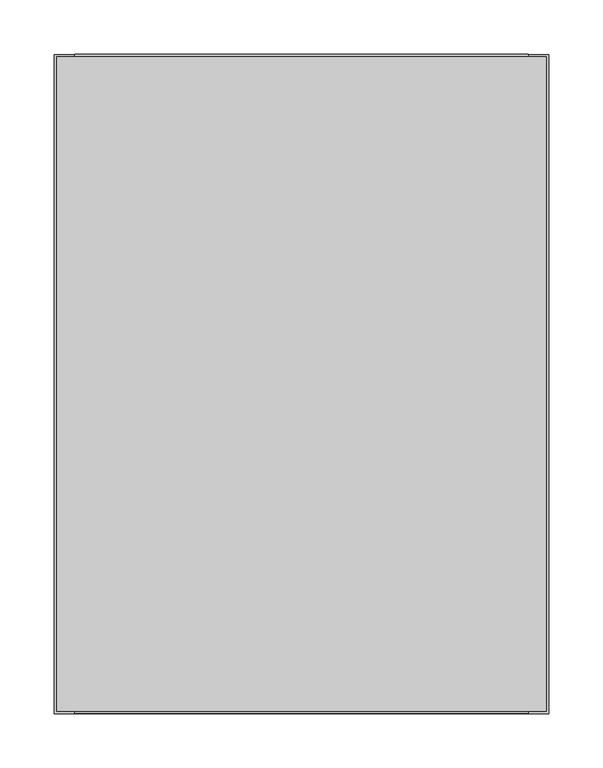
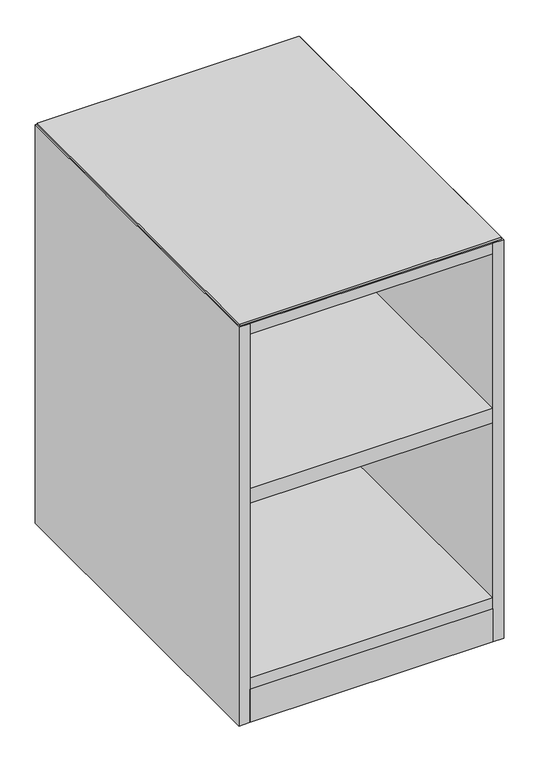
"""IFC4 building model written with IfcOpenShell, lengths in millimetres: furniture geometry, Geiger_GeigerOneCasegoods_LowStorageOpen : TFL 18Wx 24Dx28.75H."""

import ifcopenshell
import ifcopenshell.guid

model = None  # the IFC model being written
_history = None  # IfcOwnerHistory: only IFC2X3 demands one
_inside = {}  # id of a spatial element -> (the spatial element, [elements in it])
_under = {}  # id of a project, library or spatial element -> (it, [spatial elements below it])
_declared = {}  # id of a project -> (the project, [libraries it declares])
_typed = {}  # id of a type object -> (the type object, [elements of that type])
_made_of = {}  # id of a material, layer set ... -> (it, [elements and type objects made of it])


def new_model(schema):
    """Start an empty IFC model of exactly this schema.

    Asked for "IFC4X3", IfcOpenShell would pick the latest addendum, in which some entities
    have other attributes; the version numbers below select the first issue.
    IFC2X3 requires an IfcOwnerHistory on every rooted entity: one is made here for all.
    """
    global model, _history
    if schema == "IFC4X3":
        model = ifcopenshell.file(schema_version=(4, 3, 0, 0))
    else:
        model = ifcopenshell.file(schema=schema)
    _inside.clear()
    _under.clear()
    _declared.clear()
    _typed.clear()
    _made_of.clear()
    _history = None
    if model.schema == "IFC2X3":
        org = make("IfcOrganization", Name="unknown")
        user = make(
            "IfcPersonAndOrganization",
            ThePerson=make("IfcPerson", FamilyName="unknown"),
            TheOrganization=org,
        )
        app = make(
            "IfcApplication",
            ApplicationDeveloper=org,
            Version="unknown",
            ApplicationFullName="unknown",
            ApplicationIdentifier="unknown",
        )
        _history = make(
            "IfcOwnerHistory",
            OwningUser=user,
            OwningApplication=app,
            ChangeAction="ADDED",
            CreationDate=0,
        )
    return model


def make(cls, **values):
    """One entity of the class cls with the attributes given. An attribute that is None is left unset."""
    return model.create_entity(
        cls, **{name: value for name, value in values.items() if value is not None}
    )


def rooted(cls, **values):
    """An entity with a GlobalId (a new one), such as an element, a storey or a relation."""
    return make(cls, GlobalId=ifcopenshell.guid.new(), OwnerHistory=_history, **values)


def si_unit(unit_type, name, prefix=None):
    """IfcSIUnit, for example si_unit("LENGTHUNIT", "METRE", prefix="MILLI")."""
    return make("IfcSIUnit", UnitType=unit_type, Prefix=prefix, Name=name)


def assignment(units):
    """IfcUnitAssignment: the units of a project."""
    return None if units is None else make("IfcUnitAssignment", Units=units)


def point(xyz):
    """IfcCartesianPoint."""
    return None if xyz is None else make("IfcCartesianPoint", Coordinates=xyz)


def direction(xyz):
    """IfcDirection."""
    return None if xyz is None else make("IfcDirection", DirectionRatios=xyz)


def frame(location, z_axis=None, x_axis=None):
    """IfcAxis2Placement3D, a coordinate frame: its origin and axes. An axis left out is left unset."""
    return make(
        "IfcAxis2Placement3D",
        Location=point(location),
        Axis=direction(z_axis),
        RefDirection=direction(x_axis),
    )


def origin():
    """The frame at (0, 0, 0) with its axes left unset."""
    return frame((0.0, 0.0, 0.0))


def place(relative_to, where):
    """IfcLocalPlacement: puts the frame where relative to a parent placement (None: the world)."""
    return make(
        "IfcLocalPlacement", PlacementRelTo=relative_to, RelativePlacement=where
    )


def context(
    kind, dimensions, precision=None, world=None, true_north=None, identifier=None
):
    """IfcGeometricRepresentationContext, for example the 3D "Model" context."""
    return make(
        "IfcGeometricRepresentationContext",
        ContextIdentifier=identifier,
        ContextType=kind,
        CoordinateSpaceDimension=dimensions,
        Precision=precision,
        WorldCoordinateSystem=world,
        TrueNorth=true_north,
    )


def project(units=None, contexts=None):
    """IfcProject with its units and contexts."""
    return rooted(
        "IfcProject",
        Name="project",
        RepresentationContexts=contexts,
        UnitsInContext=assignment(units),
    )


def spatial(cls, under=None, at=None, **own):
    """A site, building, storey or space (cls), placed at a placement, below another one or the project."""
    s = rooted(cls, ObjectPlacement=at, **own)
    if under is not None:
        _under.setdefault(under.id(), (under, []))[1].append(s)
    return s


def polyline(points):
    """IfcPolyline through the points."""
    return make("IfcPolyline", Points=[point(p) for p in points])


def circle_curve(where, radius):
    """IfcCircle in the frame where."""
    return make("IfcCircle", Position=where, Radius=radius)


def ellipse_curve(where, semi_axis1, semi_axis2):
    """IfcEllipse in the frame where."""
    return make(
        "IfcEllipse", Position=where, SemiAxis1=semi_axis1, SemiAxis2=semi_axis2
    )


def trimmed(basis, trim1, trim2, sense, master):
    """IfcTrimmedCurve: the piece of a basis curve between two trims."""
    return make(
        "IfcTrimmedCurve",
        BasisCurve=basis,
        Trim1=trim1,
        Trim2=trim2,
        SenseAgreement=sense,
        MasterRepresentation=master,
    )


def outline(outer, holes=None, kind="AREA"):
    """IfcArbitraryClosedProfileDef: a profile drawn as a closed curve; with holes, ...WithVoids."""
    if holes is None:
        return make("IfcArbitraryClosedProfileDef", ProfileType=kind, OuterCurve=outer)
    return make(
        "IfcArbitraryProfileDefWithVoids",
        ProfileType=kind,
        OuterCurve=outer,
        InnerCurves=holes,
    )


def extrude(swept, where, along, depth):
    """IfcExtrudedAreaSolid: the profile swept, set in the frame where, extruded along a direction by depth."""
    return make(
        "IfcExtrudedAreaSolid",
        SweptArea=swept,
        Position=where,
        ExtrudedDirection=direction(along),
        Depth=depth,
    )


def shape(context_of_items, identifier, shape_type, items):
    """IfcShapeRepresentation: the items that make up one representation, for example the "Body"."""
    return make(
        "IfcShapeRepresentation",
        ContextOfItems=context_of_items,
        RepresentationIdentifier=identifier,
        RepresentationType=shape_type,
        Items=items,
    )


def source(mapping_origin, context_of_items, identifier, shape_type, items):
    """IfcRepresentationMap: a shape defined once, which mapped items show again and again."""
    return make(
        "IfcRepresentationMap",
        MappingOrigin=mapping_origin,
        MappedRepresentation=shape(context_of_items, identifier, shape_type, items),
    )


def transform(
    local_origin,
    x_axis=None,
    y_axis=None,
    z_axis=None,
    scale=None,
    scale2=None,
    scale3=None,
    uniform=True,
):
    """IfcCartesianTransformationOperator3D, or its non-uniform kind. x_axis, y_axis, z_axis: its Axis1, 2, 3."""
    if uniform:
        return make(
            "IfcCartesianTransformationOperator3D",
            Axis1=direction(x_axis),
            Axis2=direction(y_axis),
            LocalOrigin=point(local_origin),
            Scale=scale,
            Axis3=direction(z_axis),
        )
    return make(
        "IfcCartesianTransformationOperator3DnonUniform",
        Axis1=direction(x_axis),
        Axis2=direction(y_axis),
        LocalOrigin=point(local_origin),
        Scale=scale,
        Axis3=direction(z_axis),
        Scale2=scale2,
        Scale3=scale3,
    )


def mapped(mapping_source, mapping_target):
    """IfcMappedItem: shows the shape of a source again, moved by a transform."""
    return make(
        "IfcMappedItem", MappingSource=mapping_source, MappingTarget=mapping_target
    )


def made_of(thing, what):
    """Note that an element or type object is made of a material, layer set ...; save() writes the relation."""
    if what is not None:
        _made_of.setdefault(what.id(), (what, []))[1].append(thing)
    return thing


def element(
    cls,
    number,
    at=None,
    inside=None,
    cuts=None,
    type_object=None,
    material=None,
    context=None,
    identifier="Body",
    shape_type=None,
    held_by="IfcProductDefinitionShape",
    body=None,
    shapes=None,
    **own,
):
    """One element of the class cls, such as IfcWall. Its Tag is "e" and its number.

    at: its placement. inside: the storey or other place that contains it. cuts: it is an
    opening in that element (IfcRelVoidsElement). A single representation is given by context,
    identifier, shape_type and body (its items); several are given by shapes. held_by: the class
    of the entity that holds the representations. save() writes the other relations.
    """
    e = rooted(cls, Tag="e%d" % number, ObjectPlacement=at, **own)
    if body is not None:
        shapes = [shape(context, identifier, shape_type, body)]
    if shapes is not None:
        e.Representation = make(held_by, Representations=shapes)
    if inside is not None:
        _inside.setdefault(inside.id(), (inside, []))[1].append(e)
    if cuts is not None:
        rooted(
            "IfcRelVoidsElement", RelatingBuildingElement=cuts, RelatedOpeningElement=e
        )
    if type_object is not None:
        _typed.setdefault(type_object.id(), (type_object, []))[1].append(e)
    return made_of(e, material)


def aggregate(whole, parts):
    """IfcRelAggregates: a whole, such as a stair, and the parts it consists of."""
    return rooted("IfcRelAggregates", RelatingObject=whole, RelatedObjects=parts)


def save(model, path):
    """Write the relations noted so far, then the file.

    IfcRelAggregates (storeys below a building ...), IfcRelContainedInSpatialStructure (elements
    in a storey), IfcRelDefinesByType, IfcRelAssociatesMaterial and IfcRelDeclares: one each for
    every whole, place, type object, material and project.
    """
    for whole, parts in _under.values():
        aggregate(whole, parts)
    for where, things in _inside.values():
        rooted(
            "IfcRelContainedInSpatialStructure",
            RelatedElements=things,
            RelatingStructure=where,
        )
    for kind, things in _typed.values():
        rooted("IfcRelDefinesByType", RelatedObjects=things, RelatingType=kind)
    for what, things in _made_of.values():
        rooted("IfcRelAssociatesMaterial", RelatedObjects=things, RelatingMaterial=what)
    for by, libraries in _declared.values():
        rooted("IfcRelDeclares", RelatingContext=by, RelatedDefinitions=libraries)
    model.write(path)


def plane_surface(at):
    """IfcPlane: the flat surface through the origin of the frame at, square to its z axis."""
    return make("IfcPlane", Position=at)


def cylinder_surface(at, radius):
    """IfcCylindricalSurface: all points at the distance radius from the z axis of the frame at."""
    return make("IfcCylindricalSurface", Position=at, Radius=radius)


def revolved_surface(curve, axis_point, axis_direction):
    """IfcSurfaceOfRevolution: the curve turned about the line through axis_point along axis_direction."""
    return make(
        "IfcSurfaceOfRevolution",
        SweptCurve=make("IfcArbitraryOpenProfileDef", ProfileType="CURVE", Curve=curve),
        AxisPosition=make("IfcAxis1Placement", Location=point(axis_point), Axis=direction(axis_direction)),
    )


def advanced_brep(points, edges, surfaces, faces):
    """IfcAdvancedBrep: a solid bounded by faces that lie on surfaces and meet in shared edges.

    An edge is (start, end): straight between two places in points (the first is 0);
    or (start, end, curve); or (start, end, curve, False) where it runs against its curve.
    A face is (place in surfaces, loops), or (place, loops, False) where it looks against
    its surface's normal. A loop lists edges by number (the first is 1), with a minus sign
    where the edge is run from its end to its start. The first loop is the outer one.
    """
    corners = [point(p) for p in points]
    vertices = [make("IfcVertexPoint", VertexGeometry=c) for c in corners]
    made = []
    for start, end, *more in edges:
        made.append(
            make(
                "IfcEdgeCurve",
                EdgeStart=vertices[start],
                EdgeEnd=vertices[end],
                EdgeGeometry=more[0] if more else make("IfcPolyline", Points=[corners[start], corners[end]]),
                SameSense=more[1] if len(more) > 1 else True,
            )
        )
    hull = []
    for where, loops, *sense in faces:
        bounds = []
        for j, loop in enumerate(loops):
            ring = [make("IfcOrientedEdge", EdgeElement=made[abs(k) - 1], Orientation=k > 0) for k in loop]
            bounds.append(
                make(
                    "IfcFaceOuterBound" if j == 0 else "IfcFaceBound",
                    Bound=make("IfcEdgeLoop", EdgeList=ring),
                    Orientation=True,
                )
            )
        hull.append(make("IfcAdvancedFace", Bounds=bounds, FaceSurface=surfaces[where], SameSense=sense[0] if sense else True))
    return make("IfcAdvancedBrep", Outer=make("IfcClosedShell", CfsFaces=hull))


def furniture_950f9a17(model_context):
    return source(origin(), model_context, "Body", "SolidModel", [
        extrude(outline(polyline([(19.0, -19.5), (438.2, -19.5), (438.2, -590.1), (19.0, -590.1), (19.0, -19.5)])), frame((0.0, 0.0, 12.7), z_axis=(0.0, 0.0, 1.0), x_axis=(1.0, 0.0, 0.0)), (0.0, 0.0, 1.0), 19.5),
        extrude(outline(polyline([(454.66, -2.54), (454.66, -607.06), (2.54, -607.06), (2.54, -2.54), (454.66, -2.54)])), frame((0.0, 0.0, 739.5), z_axis=(0.0, 0.0, 1.0), x_axis=(1.0, 0.0, 0.0)), (0.0, 0.0, 1.0), 3.2766),
        extrude(outline(polyline([(19.0, -248.1), (438.2, -248.1), (438.2, -609.1), (19.0, -609.1), (19.0, -248.1)])), frame((0.0, 0.0, 720.0), z_axis=(0.0, 0.0, 1.0), x_axis=(1.0, 0.0, 0.0)), (0.0, 0.0, 1.0), 19.5),
        extrude(outline(polyline([(19.0, -95.5), (438.2, -95.5), (438.2, -114.5), (19.0, -114.5), (19.0, -95.5)])), frame((0.0, 0.0, 73.2), z_axis=(0.0, 0.0, 1.0), x_axis=(1.0, 0.0, 0.0)), (0.0, 0.0, 1.0), 614.8),
        extrude(outline(polyline([(19.0, -114.5), (438.2, -114.5), (438.2, -609.1), (19.0, -609.1), (19.0, -114.5)])), frame((0.0, 0.0, 412.2928), z_axis=(0.0, 0.0, 1.0), x_axis=(1.0, 0.0, 0.0)), (0.0, 0.0, 1.0), 26.0008),
        extrude(outline(polyline([(19.0, -114.5), (438.2, -114.5), (438.2, -609.1), (19.0, -609.1), (19.0, -114.5)])), frame((0.0, 0.0, 73.2), z_axis=(0.0, 0.0, 1.0), x_axis=(1.0, 0.0, 0.0)), (0.0, 0.0, 1.0), 19.5),
        extrude(outline(polyline([(438.2, -19.5), (19.0, -19.5), (19.0, 0.0), (438.2, 0.0), (438.2, -19.5)])), frame((0.0, 0.0, 12.7), z_axis=(0.0, 0.0, 1.0), x_axis=(1.0, 0.0, 0.0)), (0.0, 0.0, 1.0), 726.8),
        extrude(outline(polyline([(19.0, -590.1), (438.2, -590.1), (438.2, -609.6), (19.0, -609.6), (19.0, -590.1)])), frame((0.0, 0.0, 12.7), z_axis=(0.0, 0.0, 1.0), x_axis=(1.0, 0.0, 0.0)), (0.0, 0.0, 1.0), 60.5),
        extrude(outline(polyline([(19.0, -609.6), (0.0, -609.6), (0.0, -0.5), (19.0, -0.5), (19.0, -609.6)])), frame((0.0, 0.0, 12.7), z_axis=(0.0, 0.0, 1.0), x_axis=(1.0, 0.0, 0.0)), (0.0, 0.0, 1.0), 726.8),
        extrude(outline(polyline([(457.2, -609.6), (438.2, -609.6), (438.2, -0.5), (457.2, -0.5), (457.2, -609.6)])), frame((0.0, 0.0, 12.7), z_axis=(0.0, 0.0, 1.0), x_axis=(1.0, 0.0, 0.0)), (0.0, 0.0, 1.0), 726.8),
        advanced_brep(
        [(94.0575663, -552.1, 0.0), (71.9424337, -552.1, 0.0), (83.0, -552.1, 0.0), (94.0575663, -552.1, 9.5), (71.9424337, -552.1, 9.5), (87.066455, -552.1, 9.5), (78.933545, -552.1, 9.5), (87.066455, -552.1, 12.7), (78.933545, -552.1, 12.7), (83.0, -552.1, 12.7)],
        [
            (0, 1, circle_curve(frame((83.0, -552.1, 0.0), z_axis=(0.0, 0.0, -1.0), x_axis=(-1.0, 0.0, 0.0)), 11.0575663)),
            (1, 2),
            (2, 0),
            (1, 0, circle_curve(frame((83.0, -552.1, 0.0), z_axis=(0.0, 0.0, -1.0), x_axis=(-1.0, 0.0, 0.0)), 11.0575663)),
            (0, 3, circle_curve(frame((94.0575663, -552.1, 4.75), z_axis=(0.0, -1.0, 0.0), x_axis=(1.0, 0.0, 0.0)), 4.75)),
            (3, 4, circle_curve(frame((83.0, -552.1, 9.5), z_axis=(0.0, 0.0, -1.0), x_axis=(-1.0, 0.0, 0.0)), 11.0575663)),
            (4, 1, circle_curve(frame((71.9424337, -552.1, 4.75), z_axis=(0.0, -1.0, 0.0), x_axis=(-1.0, 0.0, 0.0)), 4.75)),
            (4, 3, circle_curve(frame((83.0, -552.1, 9.5), z_axis=(0.0, 0.0, -1.0), x_axis=(-1.0, 0.0, 0.0)), 11.0575663)),
            (3, 5),
            (5, 6, circle_curve(frame((83.0, -552.1, 9.5), z_axis=(0.0, 0.0, -1.0), x_axis=(-1.0, 0.0, 0.0)), 4.066455)),
            (6, 4),
            (6, 5, circle_curve(frame((83.0, -552.1, 9.5), z_axis=(0.0, 0.0, -1.0), x_axis=(-1.0, 0.0, 0.0)), 4.066455)),
            (5, 7),
            (7, 8, circle_curve(frame((83.0, -552.1, 12.7), z_axis=(0.0, 0.0, -1.0), x_axis=(-1.0, 0.0, 0.0)), 4.066455)),
            (8, 6),
            (8, 7, circle_curve(frame((83.0, -552.1, 12.7), z_axis=(0.0, 0.0, -1.0), x_axis=(-1.0, 0.0, 0.0)), 4.066455)),
            (7, 9),
            (9, 8),
        ],
        [
            plane_surface(frame((83.0, -552.1, 0.0), z_axis=(0.0, 0.0, -1.0), x_axis=(-1.0, 0.0, 0.0))),
            revolved_surface(trimmed(ellipse_curve(frame((71.9424337, -552.1, 4.75), z_axis=(0.0, 1.0, 0.0), x_axis=(-1.0, 0.0, 0.0)), 4.75, 4.75), [point((71.9424337, -552.1, 0.0))], [point((71.9424337, -552.1, 9.5))], True, "CARTESIAN"), (83.0, -552.1, 0.0), (0.0, 0.0, 1.0)),
            plane_surface(frame((83.0, -552.1, 9.5), z_axis=(0.0, 0.0, 1.0), x_axis=(-1.0, 0.0, 0.0))),
            cylinder_surface(frame((83.0, -552.1, 0.0), z_axis=(0.0, 0.0, 1.0), x_axis=(-1.0, 0.0, 0.0)), 4.066455),
            plane_surface(frame((83.0, -552.1, 12.7), z_axis=(0.0, 0.0, 1.0), x_axis=(-1.0, 0.0, 0.0))),
        ],
        [
            (0, [[1, 2, 3]]),
            (0, [[-2, 4, -3]]),
            (1, [[-1, 5, 6, 7]]),
            (1, [[-4, -7, 8, -5]]),
            (2, [[-6, 9, 10, 11]]),
            (2, [[-8, -11, 12, -9]]),
            (3, [[-10, 13, 14, 15]]),
            (3, [[-12, -15, 16, -13]]),
            (4, [[-14, 17, 18]]),
            (4, [[-16, -18, -17]]),
        ],
    ),
        advanced_brep(
        [(94.0575663, -127.0, 0.0), (71.9424337, -127.0, 0.0), (83.0, -127.0, 0.0), (94.0575663, -127.0, 9.5), (71.9424337, -127.0, 9.5), (87.066455, -127.0, 9.5), (78.933545, -127.0, 9.5), (87.066455, -127.0, 12.7), (78.933545, -127.0, 12.7), (83.0, -127.0, 12.7)],
        [
            (0, 1, circle_curve(frame((83.0, -127.0, 0.0), z_axis=(0.0, 0.0, -1.0), x_axis=(-1.0, 0.0, 0.0)), 11.0575663)),
            (1, 2),
            (2, 0),
            (1, 0, circle_curve(frame((83.0, -127.0, 0.0), z_axis=(0.0, 0.0, -1.0), x_axis=(-1.0, 0.0, 0.0)), 11.0575663)),
            (0, 3, circle_curve(frame((94.0575663, -127.0, 4.75), z_axis=(0.0, -1.0, 0.0), x_axis=(1.0, 0.0, 0.0)), 4.75)),
            (3, 4, circle_curve(frame((83.0, -127.0, 9.5), z_axis=(0.0, 0.0, -1.0), x_axis=(-1.0, 0.0, 0.0)), 11.0575663)),
            (4, 1, circle_curve(frame((71.9424337, -127.0, 4.75), z_axis=(0.0, -1.0, 0.0), x_axis=(-1.0, 0.0, 0.0)), 4.75)),
            (4, 3, circle_curve(frame((83.0, -127.0, 9.5), z_axis=(0.0, 0.0, -1.0), x_axis=(-1.0, 0.0, 0.0)), 11.0575663)),
            (3, 5),
            (5, 6, circle_curve(frame((83.0, -127.0, 9.5), z_axis=(0.0, 0.0, -1.0), x_axis=(-1.0, 0.0, 0.0)), 4.066455)),
            (6, 4),
            (6, 5, circle_curve(frame((83.0, -127.0, 9.5), z_axis=(0.0, 0.0, -1.0), x_axis=(-1.0, 0.0, 0.0)), 4.066455)),
            (5, 7),
            (7, 8, circle_curve(frame((83.0, -127.0, 12.7), z_axis=(0.0, 0.0, -1.0), x_axis=(-1.0, 0.0, 0.0)), 4.066455)),
            (8, 6),
            (8, 7, circle_curve(frame((83.0, -127.0, 12.7), z_axis=(0.0, 0.0, -1.0), x_axis=(-1.0, 0.0, 0.0)), 4.066455)),
            (7, 9),
            (9, 8),
        ],
        [
            plane_surface(frame((83.0, -127.0, 0.0), z_axis=(0.0, 0.0, -1.0), x_axis=(-1.0, 0.0, 0.0))),
            revolved_surface(trimmed(ellipse_curve(frame((71.9424337, -127.0, 4.75), z_axis=(0.0, 1.0, 0.0), x_axis=(-1.0, 0.0, 0.0)), 4.75, 4.75), [point((71.9424337, -127.0, 0.0))], [point((71.9424337, -127.0, 9.5))], True, "CARTESIAN"), (83.0, -127.0, 0.0), (0.0, 0.0, 1.0)),
            plane_surface(frame((83.0, -127.0, 9.5), z_axis=(0.0, 0.0, 1.0), x_axis=(-1.0, 0.0, 0.0))),
            cylinder_surface(frame((83.0, -127.0, 0.0), z_axis=(0.0, 0.0, 1.0), x_axis=(-1.0, 0.0, 0.0)), 4.066455),
            plane_surface(frame((83.0, -127.0, 12.7), z_axis=(0.0, 0.0, 1.0), x_axis=(-1.0, 0.0, 0.0))),
        ],
        [
            (0, [[1, 2, 3]]),
            (0, [[-2, 4, -3]]),
            (1, [[-1, 5, 6, 7]]),
            (1, [[-4, -7, 8, -5]]),
            (2, [[-6, 9, 10, 11]]),
            (2, [[-8, -11, 12, -9]]),
            (3, [[-10, 13, 14, 15]]),
            (3, [[-12, -15, 16, -13]]),
            (4, [[-14, 17, 18]]),
            (4, [[-16, -18, -17]]),
        ],
    ),
        advanced_brep(
        [(374.2, -552.1, 0.0), (385.2575663, -552.1, 0.0), (363.1424337, -552.1, 0.0), (385.2575663, -552.1, 9.5), (363.1424337, -552.1, 9.5), (378.266455, -552.1, 9.5), (370.133545, -552.1, 9.5), (378.266455, -552.1, 12.7), (370.133545, -552.1, 12.7), (374.2, -552.1, 12.7)],
        [
            (0, 1),
            (1, 2, circle_curve(frame((374.2, -552.1, 0.0), z_axis=(0.0, 0.0, -1.0), x_axis=(1.0, 0.0, 0.0)), 11.0575663)),
            (2, 0),
            (2, 1, circle_curve(frame((374.2, -552.1, 0.0), z_axis=(0.0, 0.0, -1.0), x_axis=(1.0, 0.0, 0.0)), 11.0575663)),
            (1, 3, circle_curve(frame((385.2575663, -552.1, 4.75), z_axis=(0.0, -1.0, 0.0), x_axis=(-1.0, 0.0, 0.0)), 4.75)),
            (3, 4, circle_curve(frame((374.2, -552.1, 9.5), z_axis=(0.0, 0.0, -1.0), x_axis=(1.0, 0.0, 0.0)), 11.0575663)),
            (4, 2, circle_curve(frame((363.1424337, -552.1, 4.75), z_axis=(0.0, -1.0, 0.0), x_axis=(1.0, 0.0, 0.0)), 4.75)),
            (4, 3, circle_curve(frame((374.2, -552.1, 9.5), z_axis=(0.0, 0.0, -1.0), x_axis=(1.0, 0.0, 0.0)), 11.0575663)),
            (3, 5),
            (5, 6, circle_curve(frame((374.2, -552.1, 9.5), z_axis=(0.0, 0.0, -1.0), x_axis=(1.0, 0.0, 0.0)), 4.066455)),
            (6, 4),
            (6, 5, circle_curve(frame((374.2, -552.1, 9.5), z_axis=(0.0, 0.0, -1.0), x_axis=(1.0, 0.0, 0.0)), 4.066455)),
            (5, 7),
            (7, 8, circle_curve(frame((374.2, -552.1, 12.7), z_axis=(0.0, 0.0, -1.0), x_axis=(1.0, 0.0, 0.0)), 4.066455)),
            (8, 6),
            (8, 7, circle_curve(frame((374.2, -552.1, 12.7), z_axis=(0.0, 0.0, -1.0), x_axis=(1.0, 0.0, 0.0)), 4.066455)),
            (7, 9),
            (9, 8),
        ],
        [
            plane_surface(frame((374.2, -552.1, 0.0), z_axis=(0.0, 0.0, -1.0), x_axis=(1.0, 0.0, 0.0))),
            revolved_surface(trimmed(ellipse_curve(frame((385.2575663, -552.1, 4.75), z_axis=(0.0, 1.0, 0.0), x_axis=(-1.0, 0.0, 0.0)), 4.75, 4.75), [point((385.2575663, -552.1, 9.5))], [point((385.2575663, -552.1, 0.0))], True, "CARTESIAN"), (374.2, -552.1, 0.0), (0.0, 0.0, -1.0)),
            plane_surface(frame((374.2, -552.1, 9.5), z_axis=(0.0, 0.0, 1.0), x_axis=(1.0, 0.0, 0.0))),
            cylinder_surface(frame((374.2, -552.1, 0.0), z_axis=(0.0, 0.0, -1.0), x_axis=(1.0, 0.0, 0.0)), 4.066455),
            plane_surface(frame((374.2, -552.1, 12.7), z_axis=(0.0, 0.0, 1.0), x_axis=(1.0, 0.0, 0.0))),
        ],
        [
            (0, [[1, 2, 3]]),
            (0, [[-1, -3, 4]]),
            (1, [[-2, 5, 6, 7]]),
            (1, [[-4, -7, 8, -5]]),
            (2, [[-6, 9, 10, 11]]),
            (2, [[-8, -11, 12, -9]]),
            (3, [[-10, 13, 14, 15]]),
            (3, [[-12, -15, 16, -13]]),
            (4, [[-14, 17, 18]]),
            (4, [[-16, -18, -17]]),
        ],
    ),
        advanced_brep(
        [(374.2, -127.0, 0.0), (385.2575663, -127.0, 0.0), (363.1424337, -127.0, 0.0), (385.2575663, -127.0, 9.5), (363.1424337, -127.0, 9.5), (378.266455, -127.0, 9.5), (370.133545, -127.0, 9.5), (378.266455, -127.0, 12.7), (370.133545, -127.0, 12.7), (374.2, -127.0, 12.7)],
        [
            (0, 1),
            (1, 2, circle_curve(frame((374.2, -127.0, 0.0), z_axis=(0.0, 0.0, -1.0), x_axis=(1.0, 0.0, 0.0)), 11.0575663)),
            (2, 0),
            (2, 1, circle_curve(frame((374.2, -127.0, 0.0), z_axis=(0.0, 0.0, -1.0), x_axis=(1.0, 0.0, 0.0)), 11.0575663)),
            (1, 3, circle_curve(frame((385.2575663, -127.0, 4.75), z_axis=(0.0, -1.0, 0.0), x_axis=(-1.0, 0.0, 0.0)), 4.75)),
            (3, 4, circle_curve(frame((374.2, -127.0, 9.5), z_axis=(0.0, 0.0, -1.0), x_axis=(1.0, 0.0, 0.0)), 11.0575663)),
            (4, 2, circle_curve(frame((363.1424337, -127.0, 4.75), z_axis=(0.0, -1.0, 0.0), x_axis=(1.0, 0.0, 0.0)), 4.75)),
            (4, 3, circle_curve(frame((374.2, -127.0, 9.5), z_axis=(0.0, 0.0, -1.0), x_axis=(1.0, 0.0, 0.0)), 11.0575663)),
            (3, 5),
            (5, 6, circle_curve(frame((374.2, -127.0, 9.5), z_axis=(0.0, 0.0, -1.0), x_axis=(1.0, 0.0, 0.0)), 4.066455)),
            (6, 4),
            (6, 5, circle_curve(frame((374.2, -127.0, 9.5), z_axis=(0.0, 0.0, -1.0), x_axis=(1.0, 0.0, 0.0)), 4.066455)),
            (5, 7),
            (7, 8, circle_curve(frame((374.2, -127.0, 12.7), z_axis=(0.0, 0.0, -1.0), x_axis=(1.0, 0.0, 0.0)), 4.066455)),
            (8, 6),
            (8, 7, circle_curve(frame((374.2, -127.0, 12.7), z_axis=(0.0, 0.0, -1.0), x_axis=(1.0, 0.0, 0.0)), 4.066455)),
            (7, 9),
            (9, 8),
        ],
        [
            plane_surface(frame((374.2, -127.0, 0.0), z_axis=(0.0, 0.0, -1.0), x_axis=(1.0, 0.0, 0.0))),
            revolved_surface(trimmed(ellipse_curve(frame((385.2575663, -127.0, 4.75), z_axis=(0.0, 1.0, 0.0), x_axis=(-1.0, 0.0, 0.0)), 4.75, 4.75), [point((385.2575663, -127.0, 9.5))], [point((385.2575663, -127.0, 0.0))], True, "CARTESIAN"), (374.2, -127.0, 0.0), (0.0, 0.0, -1.0)),
            plane_surface(frame((374.2, -127.0, 9.5), z_axis=(0.0, 0.0, 1.0), x_axis=(1.0, 0.0, 0.0))),
            cylinder_surface(frame((374.2, -127.0, 0.0), z_axis=(0.0, 0.0, -1.0), x_axis=(1.0, 0.0, 0.0)), 4.066455),
            plane_surface(frame((374.2, -127.0, 12.7), z_axis=(0.0, 0.0, 1.0), x_axis=(1.0, 0.0, 0.0))),
        ],
        [
            (0, [[1, 2, 3]]),
            (0, [[-1, -3, 4]]),
            (1, [[-2, 5, 6, 7]]),
            (1, [[-4, -7, 8, -5]]),
            (2, [[-6, 9, 10, 11]]),
            (2, [[-8, -11, 12, -9]]),
            (3, [[-10, 13, 14, 15]]),
            (3, [[-12, -15, 16, -13]]),
            (4, [[-14, 17, 18]]),
            (4, [[-16, -18, -17]]),
        ],
    ),
    ])


if __name__ == "__main__":
    model = new_model("IFC4")
    model_context = context("Model", 3, world=origin())
    ifc_project = project(units=[si_unit("LENGTHUNIT", "METRE", prefix="MILLI")], contexts=[model_context])
    site = spatial("IfcSite", under=ifc_project)
    building = spatial("IfcBuilding", under=site)
    placement = place(None, origin())
    furniture_shape = furniture_950f9a17(model_context)
    element("IfcFurniture", 1, ObjectType="Geiger_GeigerOneCasegoods_LowStorageOpen : TFL 18Wx 24Dx28.75H", at=placement, inside=building, context=model_context, shape_type="MappedRepresentation", body=[
        mapped(furniture_shape, transform((0.0, 0.0, 0.0), x_axis=(1.0, 0.0, 0.0), y_axis=(0.0, 1.0, 0.0), z_axis=(0.0, 0.0, 1.0))),
    ])
    save(model, "model.ifc")
